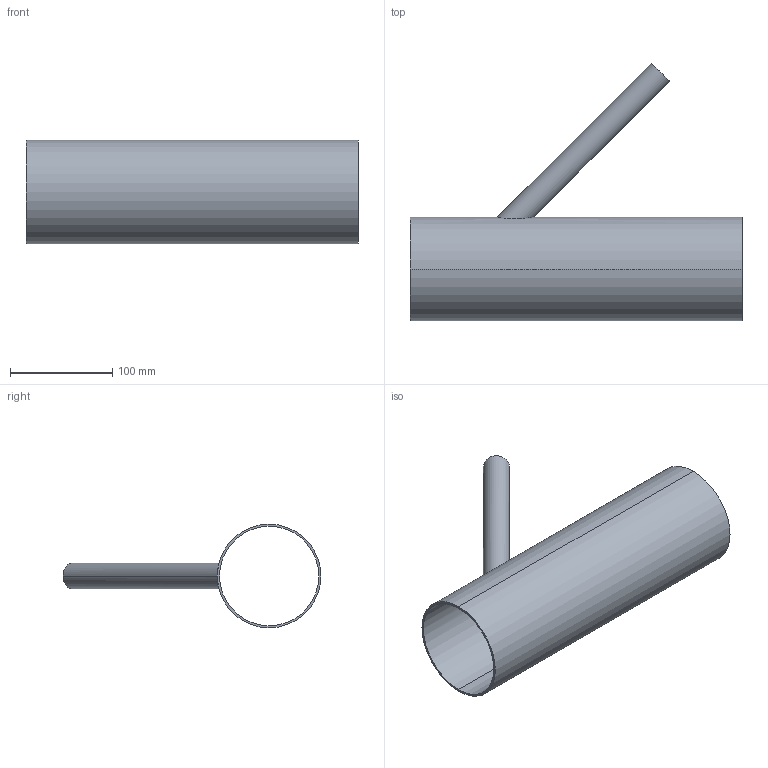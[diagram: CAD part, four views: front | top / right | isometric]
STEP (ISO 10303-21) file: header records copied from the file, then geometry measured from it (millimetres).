
FILE_DESCRIPTION (( 'STEP AP203' ), '1' );
FILE_NAME ('E28RWA 4.0X1.0.STEP', '2021-10-12T15:19:14', ( '' ), ( '' ), 'SwSTEP 2.0', 'SolidWorks 2021', '' );
FILE_SCHEMA (( 'CONFIG_CONTROL_DESIGN' ));
Length unit declared in the file: inch
Products named in the file (1): E28RWA 4.0X1.0
Bounding box: 325.42 x 252.86 x 101.6 mm (x, y, z)
Volume: 238194 mm3; surface area: 233988 mm2
Topology: 1 solids, 1 shells, 11 faces, 24 edges, 16 vertices
Faces by surface type: cylinder 8, plane 3
Entity records: 593 total; most frequent: CARTESIAN_POINT 256, DIRECTION 56, ORIENTED_EDGE 48, EDGE_CURVE 24, AXIS2_PLACEMENT_3D 24, VERTEX_POINT 16, EDGE_LOOP 16, CIRCLE 12
